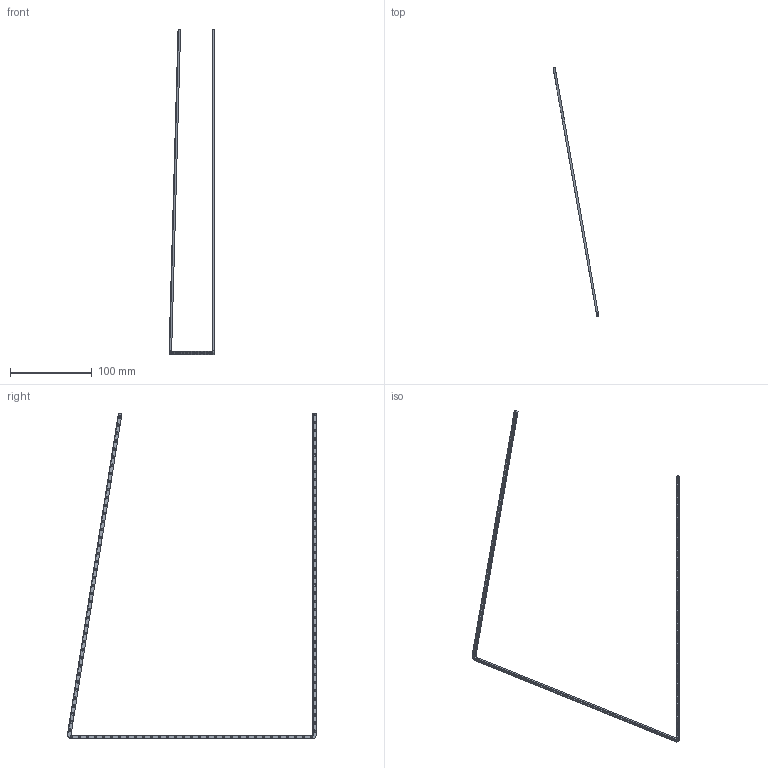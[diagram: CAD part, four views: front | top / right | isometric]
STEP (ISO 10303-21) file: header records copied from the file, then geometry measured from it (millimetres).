
FILE_DESCRIPTION(('STEP AP242 Edition 2','STEP AP242 Edition 2''CAx-IF Rec.Pracs.---Representation and Presentation of Product Manufacturing Information (PMI)---4.0---2014-10-13','STEP AP242 Edition 2''CAx-IF Rec.Pracs.---Representation and Presentation of Product Manufacturing Information (PMI)---4.0---2014-10-13''CAx-IF Rec.Pracs.---3D Tessellated Geometry---0.4---2014-09-14','STEP AP242 Edition 2''CAx-IF Rec.Pracs.---Representation and Presentation of Product Manufacturing Information (PMI)---4.0---2014-10-13''CAx-IF Rec.Pracs.---3D Tessellated Geometry---0.4---2014-09-14''2;1','STEP AP242 Edition 2''CAx-IF Rec.Pracs.---Representation and Presentation of Product Manufacturing Information (PMI)---4.0---2014-10-13''CAx-IF Rec.Pracs.---3D Tessellated Geometry---0.4---2014-09-14''2;1''CAx-IF Rec.Pracs.---User Defined Attributes---1.5---2016-08-15'),'2;1');
FILE_NAME('/vol/tmp/translate-5928582753522486027/Part Studio Body Front - Part Front Right Lower - Door 6 Chrome.step','2026-05-02T13:02:39',(''),(''),'ST-DEVELOPER v20','ONSHAPE BY PTC INC, 1.214',' ');
FILE_SCHEMA(('AP242_MANAGED_MODEL_BASED_3D_ENGINEERING_MIM_LF { 1 0 10303 442 3 1 4 }'));
Length unit declared in the file: metre
Products named in the file (1): Part Front Right Lower - Door 6 Chrome
Bounding box: 56.16 x 304.95 x 398.46 mm (x, y, z)
Volume: 10264.8 mm3; surface area: 15099.5 mm2
Topology: 1 solids, 1 shells, 236 faces, 372 edges, 248 vertices
Faces by surface type: plane 121, cone 111, cylinder 4
Entity records: 4908 total; most frequent: DIRECTION 963, CARTESIAN_POINT 750, ORIENTED_EDGE 520, AXIS2_PLACEMENT_3D 467, EDGE_LOOP 457, FACE_BOUND 457, EDGE_CURVE 260, VERTEX_POINT 247
